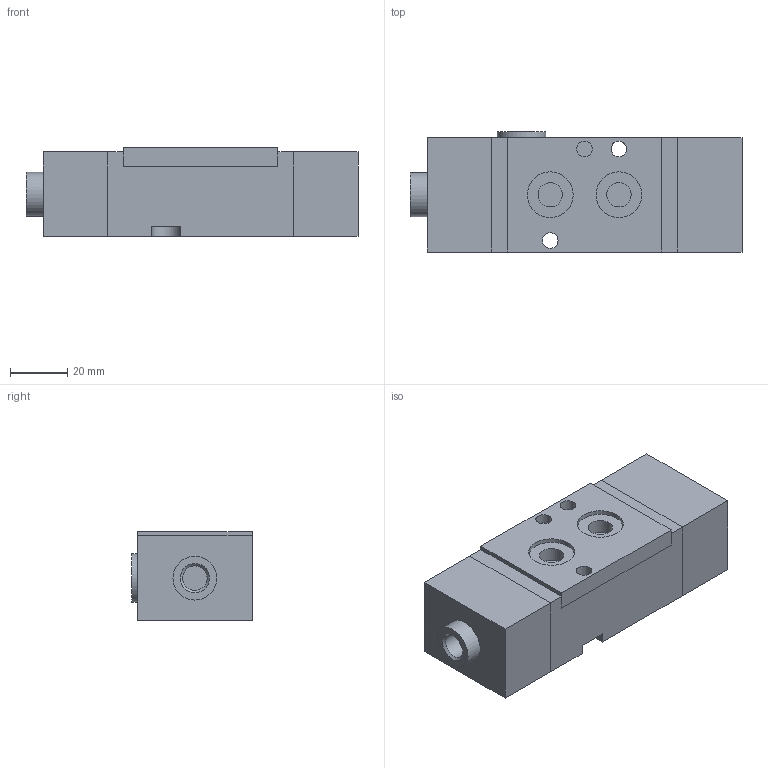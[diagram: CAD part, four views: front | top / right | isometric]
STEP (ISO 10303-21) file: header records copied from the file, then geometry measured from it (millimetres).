
FILE_DESCRIPTION((''),'2;1');
FILE_NAME('I:\Area Tecnica\Disegni\VARIE-3D\Componenti\T514\3D\T514_42_00_19.stp','2008-05-09T11:20:20',('foiengi1'),(''),'Autodesk Inventor 2008','Autodesk Inventor 2008','');
FILE_SCHEMA(('AUTOMOTIVE_DESIGN { 1 0 10303 214 1 1 1 1 }'));
Length unit declared in the file: millimetre
Products named in the file (1): T514_42_00_19
Bounding box: 116 x 42 x 31 mm (x, y, z)
Volume: 128847.4 mm3; surface area: 20727.8 mm2
Topology: 1 solids, 1 shells, 78 faces, 167 edges, 109 vertices
Faces by surface type: plane 43, bspline 27, cylinder 8
Full cylindrical faces by diameter (mm): 5.5 x2, 15.31 x1, 16 x2, 17 x1
Entity records: 2262 total; most frequent: CARTESIAN_POINT 612, ORIENTED_EDGE 294, DIRECTION 292, EDGE_CURVE 147, EDGE_LOOP 120, VERTEX_POINT 109, VECTOR 106, LINE 106
